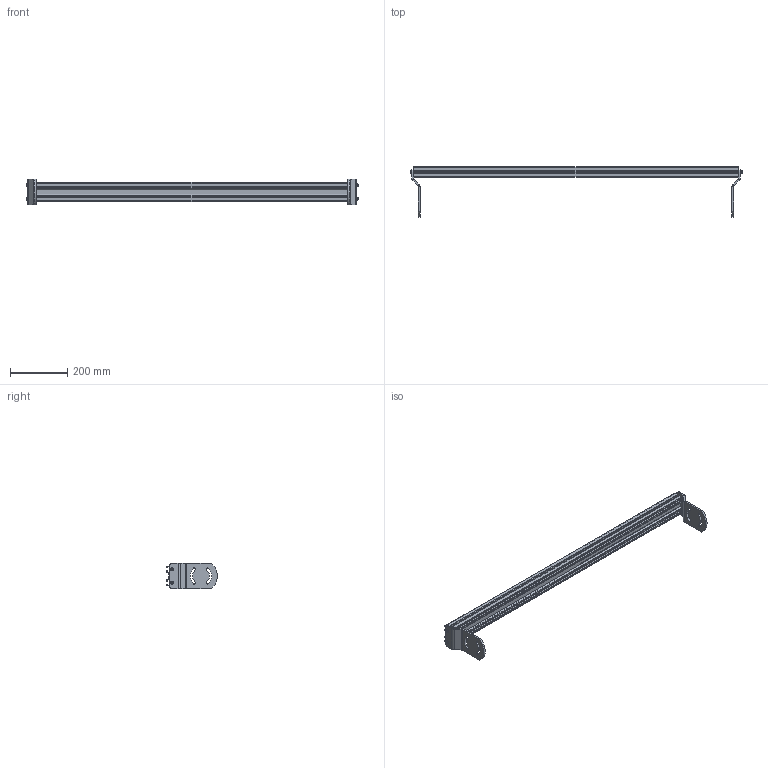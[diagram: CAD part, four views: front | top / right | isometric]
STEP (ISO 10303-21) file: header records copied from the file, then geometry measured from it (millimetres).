
FILE_DESCRIPTION((''),'2;1');
FILE_NAME('39MCM42-2_ASM','2023-03-01T',('jenni.wallner'),(''),'PRO/ENGINEER BY PARAMETRIC TECHNOLOGY CORPORATION, 2012420','PRO/ENGINEER BY PARAMETRIC TECHNOLOGY CORPORATION, 2012420','');
FILE_SCHEMA(('CONFIG_CONTROL_DESIGN'));
Length unit declared in the file: inch
Products named in the file (4): 710210_04479; 300825M; 708180P; 39MCM42-2_ASM
Assembly tree (7 placements, depth 2):
  39MCM42-2_ASM
    710210_04479
    300825M  x2
    708180P  x4
Bounding box: 1162.37 x 176.65 x 88.93 mm (x, y, z)
Volume: 982166.2 mm3; surface area: 739088.2 mm2
Topology: 7 solids, 7 shells, 256 faces, 662 edges, 428 vertices
Faces by surface type: plane 144, cylinder 92, cone 20
Entity records: 4895 total; most frequent: CARTESIAN_POINT 859, DIRECTION 825, ORIENTED_EDGE 816, EDGE_CURVE 408, VECTOR 301, LINE 301, VERTEX_POINT 266, AXIS2_PLACEMENT_3D 262
